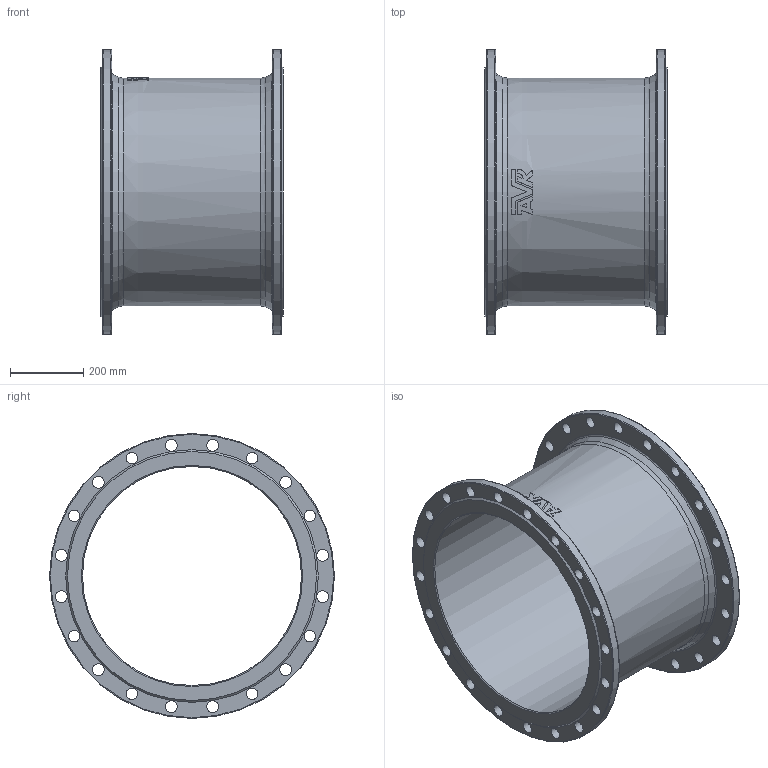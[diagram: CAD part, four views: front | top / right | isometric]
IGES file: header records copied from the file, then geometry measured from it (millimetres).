
Start section: SolidWorks IGES file using analytic representation for surfaces
Global section: file name: \\avksan2\techshare\PBM outline export from Enovia\O_712_4810_DN600_0X_REV01.igs; native system: SolidWorks 2019; preprocessor: SolidWorks 2019; author: pbm; date: 211202.091029; units: millimetre
Bounding box: 500 x 780 x 780 mm (x, y, z)
Surface area: 2654217.1 mm2 (no closed solid volume)
Topology: 0 solids, 0 shells, 105 faces, 534 edges, 475 vertices
Faces by surface type: revolution 62, bspline 43
